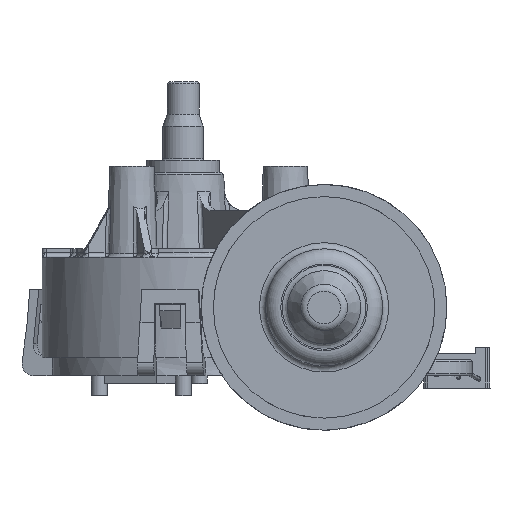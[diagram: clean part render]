
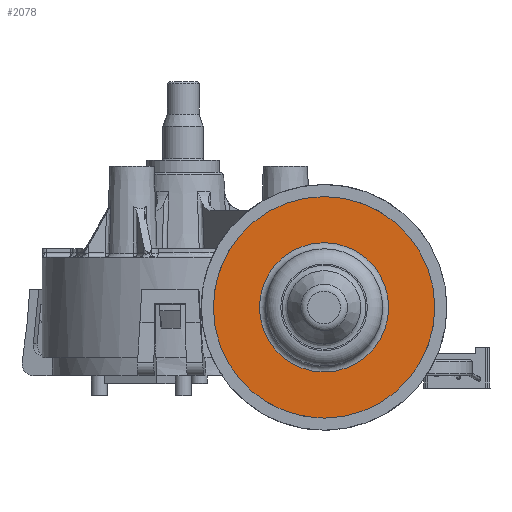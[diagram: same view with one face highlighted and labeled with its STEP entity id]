
A CAD part, front view. The second image highlights one B-rep face of the part: STEP entity #2078.
In plain terms, the highlighted planar face has unit normal (0, -1, 0).
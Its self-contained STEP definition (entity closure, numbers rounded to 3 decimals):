
#2078=ADVANCED_FACE('',(#6430,#6431),#2902,.T.);
#2902=PLANE('',#18485);
#3604=CIRCLE('',#18425,27.5);
#3632=CIRCLE('',#18484,16.05);
#6430=FACE_BOUND('',#7080,.T.);
#6431=FACE_BOUND('',#7081,.T.);
#7080=EDGE_LOOP('',(#10353));
#7081=EDGE_LOOP('',(#10354));
#10353=ORIENTED_EDGE('',*,*,#16068,.T.);
#10354=ORIENTED_EDGE('',*,*,#16130,.F.);
#14027=VERTEX_POINT('',#29469);
#14070=VERTEX_POINT('',#29719);
#16068=EDGE_CURVE('',#14027,#14027,#3604,.T.);
#16130=EDGE_CURVE('',#14070,#14070,#3632,.T.);
#18425=AXIS2_PLACEMENT_3D('',#29468,#22024,#22025);
#18484=AXIS2_PLACEMENT_3D('',#29718,#22174,#22175);
#18485=AXIS2_PLACEMENT_3D('',#29720,#22176,#22177);
#22024=DIRECTION('',(0.,-1.,0.));
#22025=DIRECTION('',(1.,0.,0.));
#22174=DIRECTION('',(0.,-1.,0.));
#22175=DIRECTION('',(1.,0.,0.));
#22176=DIRECTION('',(0.,-1.,0.));
#22177=DIRECTION('',(-0.174,0.,-0.985));
#29468=CARTESIAN_POINT('',(35.,-124.3,0.));
#29469=CARTESIAN_POINT('',(62.5,-124.3,0.));
#29718=CARTESIAN_POINT('',(35.,-124.3,0.));
#29719=CARTESIAN_POINT('',(51.05,-124.3,0.));
#29720=CARTESIAN_POINT('',(35.,-124.3,0.));
